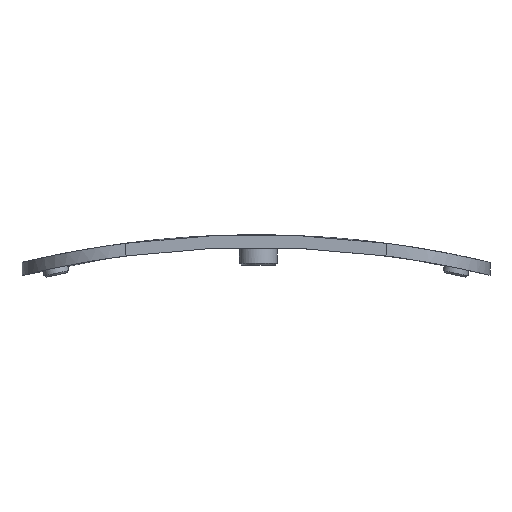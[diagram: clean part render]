
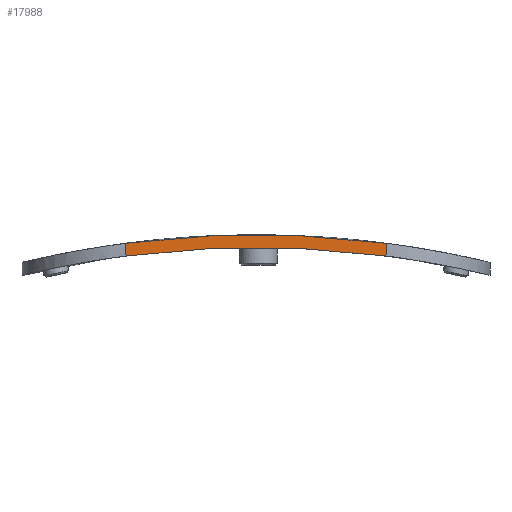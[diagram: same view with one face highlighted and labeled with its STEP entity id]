
A CAD part, front view. The second image highlights one B-rep face of the part: STEP entity #17988.
In plain terms, the highlighted planar face has unit normal (0, -1, 0).
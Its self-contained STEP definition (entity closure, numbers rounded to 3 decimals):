
#71 = CYLINDRICAL_SURFACE('',#72,111.371);
#72 = AXIS2_PLACEMENT_3D('',#73,#74,#75);
#73 = CARTESIAN_POINT('',(53.19,0.,-111.371));
#74 = DIRECTION('',(0.,-1.,0.));
#75 = DIRECTION('',(1.,0.,0.));
#98 = CYLINDRICAL_SURFACE('',#99,11.5);
#99 = AXIS2_PLACEMENT_3D('',#100,#101,#102);
#100 = CARTESIAN_POINT('',(38.74,7.02,2.));
#101 = DIRECTION('',(0.,0.,1.));
#102 = DIRECTION('',(1.,0.,0.));
#123 = CYLINDRICAL_SURFACE('',#124,109.971);
#124 = AXIS2_PLACEMENT_3D('',#125,#126,#127);
#125 = CARTESIAN_POINT('',(53.19,0.,-111.371));
#126 = DIRECTION('',(0.,-1.,0.));
#127 = DIRECTION('',(1.,0.,0.));
#280 = VERTEX_POINT('',#281);
#281 = CARTESIAN_POINT('',(38.74,-4.48,-2.353));
#407 = EDGE_CURVE('',#280,#408,#410,.T.);
#408 = VERTEX_POINT('',#409);
#409 = CARTESIAN_POINT('',(67.64,-4.48,-2.353));
#410 = SURFACE_CURVE('',#411,(#416,#423),.PCURVE_S1.);
#411 = CIRCLE('',#412,109.971);
#412 = AXIS2_PLACEMENT_3D('',#413,#414,#415);
#413 = CARTESIAN_POINT('',(53.19,-4.48,-111.371));
#414 = DIRECTION('',(-0.,1.,0.));
#415 = DIRECTION('',(1.,0.,0.));
#416 = PCURVE('',#123,#417);
#417 = DEFINITIONAL_REPRESENTATION('',(#418),#422);
#418 = LINE('',#419,#420);
#419 = CARTESIAN_POINT('',(6.283,4.48));
#420 = VECTOR('',#421,1.);
#421 = DIRECTION('',(-1.,-0.));
#422 = ( GEOMETRIC_REPRESENTATION_CONTEXT(2) 
PARAMETRIC_REPRESENTATION_CONTEXT() REPRESENTATION_CONTEXT('2D SPACE',''
  ) );
#423 = PCURVE('',#424,#429);
#424 = PLANE('',#425);
#425 = AXIS2_PLACEMENT_3D('',#426,#427,#428);
#426 = CARTESIAN_POINT('',(38.74,-4.48,2.));
#427 = DIRECTION('',(0.,-1.,0.));
#428 = DIRECTION('',(1.,0.,0.));
#429 = DEFINITIONAL_REPRESENTATION('',(#430),#438);
#430 = ( BOUNDED_CURVE() B_SPLINE_CURVE(2,(#431,#432,#433,#434,#435,#436
,#437),.UNSPECIFIED.,.T.,.F.) B_SPLINE_CURVE_WITH_KNOTS((1,2,2,2,2,1),(
    -2.094,0.,2.094,4.189,6.283,
8.378),.UNSPECIFIED.) CURVE() GEOMETRIC_REPRESENTATION_ITEM() 
RATIONAL_B_SPLINE_CURVE((1.,0.5,1.,0.5,1.,0.5,1.)) REPRESENTATION_ITEM(
  '') );
#431 = CARTESIAN_POINT('',(124.421,-113.371));
#432 = CARTESIAN_POINT('',(124.421,-303.848));
#433 = CARTESIAN_POINT('',(-40.536,-208.609));
#434 = CARTESIAN_POINT('',(-205.493,-113.371));
#435 = CARTESIAN_POINT('',(-40.536,-18.133));
#436 = CARTESIAN_POINT('',(124.421,77.105));
#437 = CARTESIAN_POINT('',(124.421,-113.371));
#438 = ( GEOMETRIC_REPRESENTATION_CONTEXT(2) 
PARAMETRIC_REPRESENTATION_CONTEXT() REPRESENTATION_CONTEXT('2D SPACE',''
  ) );
#517 = CYLINDRICAL_SURFACE('',#518,11.5);
#518 = AXIS2_PLACEMENT_3D('',#519,#520,#521);
#519 = CARTESIAN_POINT('',(67.64,7.02,2.));
#520 = DIRECTION('',(0.,0.,1.));
#521 = DIRECTION('',(1.,0.,0.));
#8899 = VERTEX_POINT('',#8900);
#8900 = CARTESIAN_POINT('',(38.74,-4.48,-0.941));
#9028 = EDGE_CURVE('',#8899,#280,#9029,.T.);
#9029 = SURFACE_CURVE('',#9030,(#9034,#9041),.PCURVE_S1.);
#9030 = LINE('',#9031,#9032);
#9031 = CARTESIAN_POINT('',(38.74,-4.48,2.));
#9032 = VECTOR('',#9033,1.);
#9033 = DIRECTION('',(-0.,-0.,-1.));
#9034 = PCURVE('',#98,#9035);
#9035 = DEFINITIONAL_REPRESENTATION('',(#9036),#9040);
#9036 = LINE('',#9037,#9038);
#9037 = CARTESIAN_POINT('',(4.712,0.));
#9038 = VECTOR('',#9039,1.);
#9039 = DIRECTION('',(0.,-1.));
#9040 = ( GEOMETRIC_REPRESENTATION_CONTEXT(2) 
PARAMETRIC_REPRESENTATION_CONTEXT() REPRESENTATION_CONTEXT('2D SPACE',''
  ) );
#9041 = PCURVE('',#424,#9042);
#9042 = DEFINITIONAL_REPRESENTATION('',(#9043),#9047);
#9043 = LINE('',#9044,#9045);
#9044 = CARTESIAN_POINT('',(0.,0.));
#9045 = VECTOR('',#9046,1.);
#9046 = DIRECTION('',(0.,-1.));
#9047 = ( GEOMETRIC_REPRESENTATION_CONTEXT(2) 
PARAMETRIC_REPRESENTATION_CONTEXT() REPRESENTATION_CONTEXT('2D SPACE',''
  ) );
#9053 = EDGE_CURVE('',#8899,#9054,#9056,.T.);
#9054 = VERTEX_POINT('',#9055);
#9055 = CARTESIAN_POINT('',(67.64,-4.48,-0.941));
#9056 = SURFACE_CURVE('',#9057,(#9062,#9069),.PCURVE_S1.);
#9057 = CIRCLE('',#9058,111.371);
#9058 = AXIS2_PLACEMENT_3D('',#9059,#9060,#9061);
#9059 = CARTESIAN_POINT('',(53.19,-4.48,-111.371));
#9060 = DIRECTION('',(-0.,1.,0.));
#9061 = DIRECTION('',(1.,0.,0.));
#9062 = PCURVE('',#71,#9063);
#9063 = DEFINITIONAL_REPRESENTATION('',(#9064),#9068);
#9064 = LINE('',#9065,#9066);
#9065 = CARTESIAN_POINT('',(6.283,4.48));
#9066 = VECTOR('',#9067,1.);
#9067 = DIRECTION('',(-1.,-0.));
#9068 = ( GEOMETRIC_REPRESENTATION_CONTEXT(2) 
PARAMETRIC_REPRESENTATION_CONTEXT() REPRESENTATION_CONTEXT('2D SPACE',''
  ) );
#9069 = PCURVE('',#424,#9070);
#9070 = DEFINITIONAL_REPRESENTATION('',(#9071),#9079);
#9071 = ( BOUNDED_CURVE() B_SPLINE_CURVE(2,(#9072,#9073,#9074,#9075,
#9076,#9077,#9078),.UNSPECIFIED.,.T.,.F.) B_SPLINE_CURVE_WITH_KNOTS((1,2
    ,2,2,2,1),(-2.094,0.,2.094,4.189,
6.283,8.378),.UNSPECIFIED.) CURVE() 
GEOMETRIC_REPRESENTATION_ITEM() RATIONAL_B_SPLINE_CURVE((1.,0.5,1.,0.5,
1.,0.5,1.)) REPRESENTATION_ITEM('') );
#9072 = CARTESIAN_POINT('',(125.821,-113.371));
#9073 = CARTESIAN_POINT('',(125.821,-306.272));
#9074 = CARTESIAN_POINT('',(-41.236,-209.822));
#9075 = CARTESIAN_POINT('',(-208.293,-113.371));
#9076 = CARTESIAN_POINT('',(-41.236,-16.921));
#9077 = CARTESIAN_POINT('',(125.821,79.53));
#9078 = CARTESIAN_POINT('',(125.821,-113.371));
#9079 = ( GEOMETRIC_REPRESENTATION_CONTEXT(2) 
PARAMETRIC_REPRESENTATION_CONTEXT() REPRESENTATION_CONTEXT('2D SPACE',''
  ) );
#17988 = ADVANCED_FACE('',(#17989),#424,.T.);
#17989 = FACE_BOUND('',#17990,.T.);
#17990 = EDGE_LOOP('',(#17991,#17992,#17993,#17994));
#17991 = ORIENTED_EDGE('',*,*,#9053,.F.);
#17992 = ORIENTED_EDGE('',*,*,#9028,.T.);
#17993 = ORIENTED_EDGE('',*,*,#407,.T.);
#17994 = ORIENTED_EDGE('',*,*,#17995,.F.);
#17995 = EDGE_CURVE('',#9054,#408,#17996,.T.);
#17996 = SURFACE_CURVE('',#17997,(#18001,#18008),.PCURVE_S1.);
#17997 = LINE('',#17998,#17999);
#17998 = CARTESIAN_POINT('',(67.64,-4.48,2.));
#17999 = VECTOR('',#18000,1.);
#18000 = DIRECTION('',(-0.,-0.,-1.));
#18001 = PCURVE('',#424,#18002);
#18002 = DEFINITIONAL_REPRESENTATION('',(#18003),#18007);
#18003 = LINE('',#18004,#18005);
#18004 = CARTESIAN_POINT('',(28.9,0.));
#18005 = VECTOR('',#18006,1.);
#18006 = DIRECTION('',(0.,-1.));
#18007 = ( GEOMETRIC_REPRESENTATION_CONTEXT(2) 
PARAMETRIC_REPRESENTATION_CONTEXT() REPRESENTATION_CONTEXT('2D SPACE',''
  ) );
#18008 = PCURVE('',#517,#18009);
#18009 = DEFINITIONAL_REPRESENTATION('',(#18010),#18014);
#18010 = LINE('',#18011,#18012);
#18011 = CARTESIAN_POINT('',(4.712,0.));
#18012 = VECTOR('',#18013,1.);
#18013 = DIRECTION('',(0.,-1.));
#18014 = ( GEOMETRIC_REPRESENTATION_CONTEXT(2) 
PARAMETRIC_REPRESENTATION_CONTEXT() REPRESENTATION_CONTEXT('2D SPACE',''
  ) );
